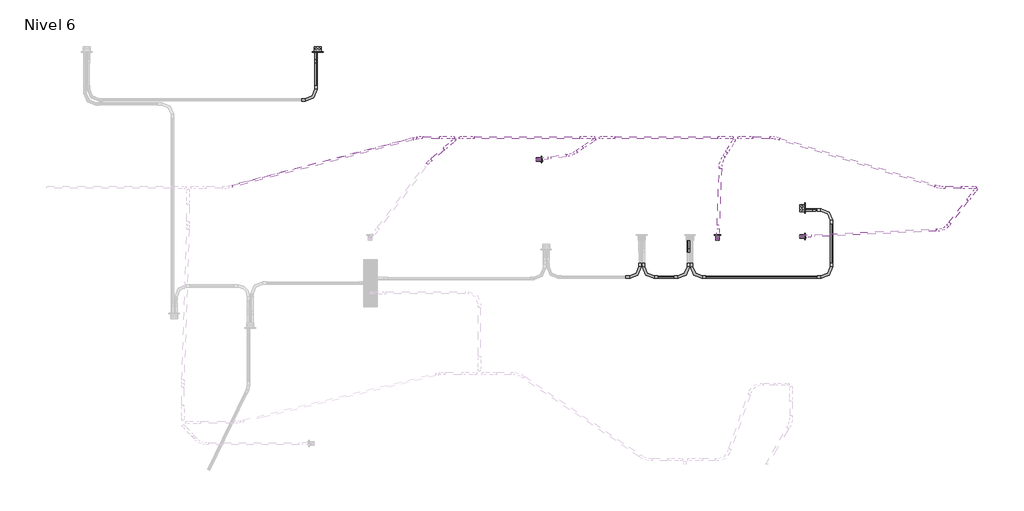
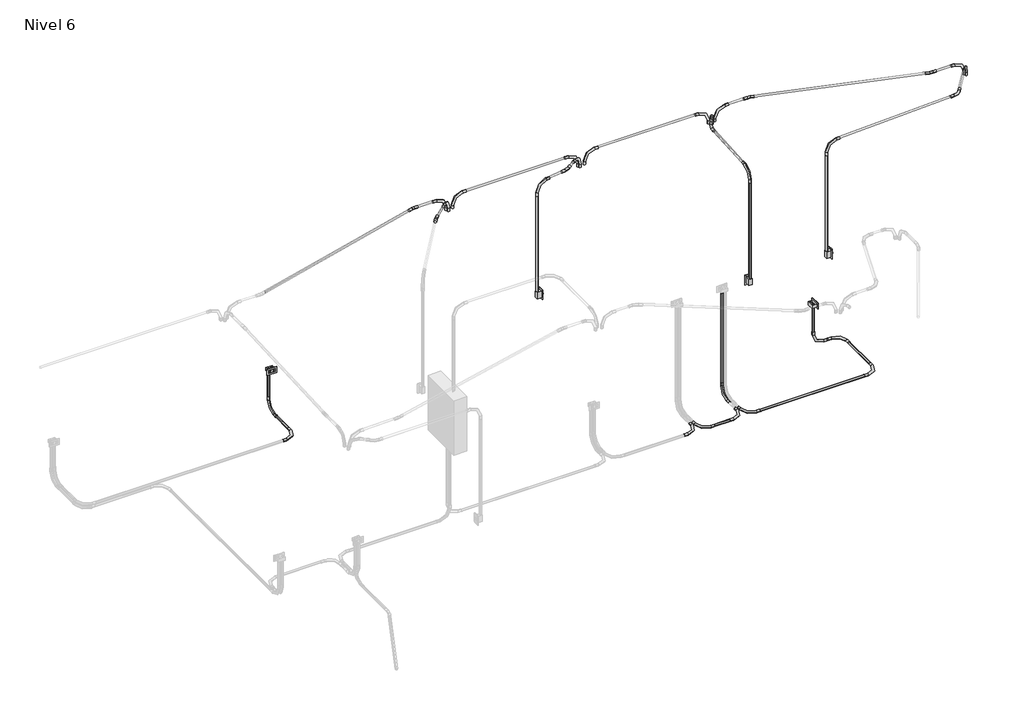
# One storey, part 9 of 9: 31 cable carrier fittings, 25 cable carrier segments, 3 switching devices, 2 proxies.
"""IFC4 building model written with IfcOpenShell, lengths in millimetres."""

from ifc_helpers import new_model, si_unit, point, frame, frame_2d, origin, place, context, project, spatial, circle_curve, trimmed, segment, composite_curve, outline, extrude, transform, mapped, element, save
from components import gfci_180f1b41, m_codo_de_tubo_extremo_liso_pvc_9da73e12, m_codo_de_tubo_extremo_liso_pvc_102f0f41, m_codo_de_tubo_extremo_liso_pvc_92fde12f, m_codo_de_tubo_extremo_liso_pvc_e41270cf, m_codo_de_tubo_extremo_liso_pvc_c93ebd9e, m_codo_de_tubo_extremo_liso_pvc_ea6c4dee, m_codo_de_tubo_extremo_liso_pvc_6b1aaa2f, m_codo_de_tubo_extremo_liso_pvc_34f56efc, switching_device_22fed34b

model = new_model("IFC4")

# Units and contexts
model_context = context("Model", 3, world=origin())
ifc_project = project(units=[si_unit("LENGTHUNIT", "METRE", prefix="MILLI")], contexts=[model_context])

# Site, building, storey
site = spatial("IfcSite", under=ifc_project)
building = spatial("IfcBuilding", under=site)
storey = spatial("IfcBuildingStorey", under=building, Name="Nivel 6", Elevation=13400.0)

# Proxies
placement = place(None, origin())
gfci_shape = gfci_180f1b41(model_context)
element("IfcBuildingElementProxy", 1, Name="Tomacorriente doble 220V : GFCI", ObjectType="Tomacorriente doble 220V : GFCI", at=placement, inside=storey, context=model_context, shape_type="MappedRepresentation", body=[
    mapped(gfci_shape, transform((692.9665874, 17515.0, 13800.0), x_axis=(0.0, 0.0, 1.0), y_axis=(-1.0, 0.0, 0.0), z_axis=(0.0, -1.0, 0.0))),
])
element("IfcBuildingElementProxy", 2, Name="Tomacorriente doble 220V : GFCI", ObjectType="Tomacorriente doble 220V : GFCI", at=placement, inside=storey, context=model_context, shape_type="MappedRepresentation", body=[
    mapped(gfci_shape, transform((5935.0, 15829.5576007, 13800.0), x_axis=(0.0, 0.0, 1.0), y_axis=(0.0, -1.0, 0.0), z_axis=(1.0, 0.0, 0.0))),
])

# Cable carrier fittings
m_codo_de_tubo_extremo_liso_pvc_shape = m_codo_de_tubo_extremo_liso_pvc_9da73e12(model_context)
element("IfcCableCarrierFitting", 3, ObjectType="M_Codo de tubo - Extremo liso - PVC : CODO POTENCIA", at=placement, inside=storey, context=model_context, shape_type="MappedRepresentation", body=[
    mapped(m_codo_de_tubo_extremo_liso_pvc_shape, transform((5905.3628882, 15811.5257809, 13330.0), x_axis=(0.0, 0.0, -1.0), y_axis=(1.0, 0.0, 0.0), z_axis=(0.0, -1.0, 0.0))),
])
element("IfcCableCarrierFitting", 4, ObjectType="M_Codo de tubo - Extremo liso - PVC : CODO POTENCIA", at=placement, inside=storey, context=model_context, shape_type="MappedRepresentation", body=[
    mapped(m_codo_de_tubo_extremo_liso_pvc_shape, transform((6225.3628882, 15811.5257809, 13330.0), x_axis=(0.0, 1.0, 0.0), y_axis=(-1.0, 0.0, 0.0), z_axis=(0.0, 0.0, 1.0))),
])
element("IfcCableCarrierFitting", 5, ObjectType="M_Codo de tubo - Extremo liso - PVC : CODO POTENCIA", at=placement, inside=storey, context=model_context, shape_type="MappedRepresentation", body=[
    mapped(m_codo_de_tubo_extremo_liso_pvc_shape, transform((4200.1764771, 15085.1167763, 13330.0), x_axis=(0.0, -1.0, 0.0), y_axis=(1.0, 0.0, 0.0), z_axis=(0.0, 0.0, 1.0))),
])
element("IfcCableCarrierFitting", 6, ObjectType="M_Codo de tubo - Extremo liso - PVC : CODO POTENCIA", at=placement, inside=storey, context=model_context, shape_type="MappedRepresentation", body=[
    mapped(m_codo_de_tubo_extremo_liso_pvc_shape, transform((4164.1128375, 15085.1167763, 13330.0), x_axis=(1.0, 0.0, 0.0), y_axis=(0.0, 1.0, 0.0), z_axis=(0.0, 0.0, 1.0))),
])
element("IfcCableCarrierFitting", 7, ObjectType="M_Codo de tubo - Extremo liso - PVC : CODO POTENCIA", at=placement, inside=storey, context=model_context, shape_type="MappedRepresentation", body=[
    mapped(m_codo_de_tubo_extremo_liso_pvc_shape, transform((4719.1096731, 15085.1167763, 13330.0), x_axis=(0.0, -1.0, 0.0), y_axis=(1.0, 0.0, 0.0), z_axis=(0.0, 0.0, 1.0))),
])
element("IfcCableCarrierFitting", 8, ObjectType="M_Codo de tubo - Extremo liso - PVC : CODO POTENCIA", at=placement, inside=storey, context=model_context, shape_type="MappedRepresentation", body=[
    mapped(m_codo_de_tubo_extremo_liso_pvc_shape, transform((6225.3628882, 15085.1167763, 13330.0), x_axis=(1.0, 0.0, 0.0), y_axis=(0.0, 1.0, 0.0), z_axis=(0.0, 0.0, 1.0))),
])
element("IfcCableCarrierFitting", 9, ObjectType="M_Codo de tubo - Extremo liso - PVC : CODO POTENCIA", at=placement, inside=storey, context=model_context, shape_type="MappedRepresentation", body=[
    mapped(m_codo_de_tubo_extremo_liso_pvc_shape, transform((4683.0460335, 15085.1167763, 13330.0), x_axis=(1.0, 0.0, 0.0), y_axis=(0.0, 1.0, 0.0), z_axis=(0.0, 0.0, 1.0))),
])
element("IfcCableCarrierFitting", 10, ObjectType="M_Codo de tubo - Extremo liso - PVC : CODO POTENCIA", at=placement, inside=storey, context=model_context, shape_type="MappedRepresentation", body=[
    mapped(m_codo_de_tubo_extremo_liso_pvc_shape, transform((4683.0460335, 15505.3628882, 13330.0), x_axis=(0.0, 0.0, -1.0), y_axis=(0.0, -1.0, 0.0), z_axis=(-1.0, 0.0, 0.0))),
])
element("IfcCableCarrierFitting", 11, ObjectType="M_Codo de tubo - Extremo liso - PVC : CODO POTENCIA", at=placement, inside=storey, context=model_context, shape_type="MappedRepresentation", body=[
    mapped(m_codo_de_tubo_extremo_liso_pvc_shape, transform((674.9347676, 17544.6371118, 13330.0), x_axis=(0.0, 0.0, -1.0), y_axis=(0.0, -1.0, 0.0), z_axis=(-1.0, 0.0, 0.0))),
])
element("IfcCableCarrierFitting", 12, ObjectType="M_Codo de tubo - Extremo liso - PVC : CODO POTENCIA", at=placement, inside=storey, context=model_context, shape_type="MappedRepresentation", body=[
    mapped(m_codo_de_tubo_extremo_liso_pvc_shape, transform((674.9347676, 16994.6371118, 13330.0), x_axis=(1.0, 0.0, 0.0), y_axis=(0.0, 1.0, 0.0), z_axis=(0.0, 0.0, 1.0))),
])
element("IfcCableCarrierFitting", 13, ObjectType="M_Codo de tubo - Extremo liso - PVC : CODO ILUMINACION", at=placement, inside=storey, context=model_context, shape_type="MappedRepresentation", body=[
    mapped(m_codo_de_tubo_extremo_liso_pvc_shape, transform((2225.9487864, 16587.4354193, 15950.0), x_axis=(-1.0, 0.0, 0.0), y_axis=(0.0, 0.0, -1.0), z_axis=(0.0, -1.0, 0.0))),
])
element("IfcCableCarrierFitting", 14, ObjectType="M_Codo de tubo - Extremo liso - PVC : CODO ILUMINACION", at=placement, inside=storey, context=model_context, shape_type="MappedRepresentation", body=[
    mapped(m_codo_de_tubo_extremo_liso_pvc_shape, transform((3736.1279972, 16587.4354193, 15950.0), x_axis=(-1.0, 0.0, 0.0), y_axis=(0.0, 0.0, -1.0), z_axis=(0.0, -1.0, 0.0))),
])
element("IfcCableCarrierFitting", 15, ObjectType="M_Codo de tubo - Extremo liso - PVC : CODO ILUMINACION", at=placement, inside=storey, context=model_context, shape_type="MappedRepresentation", body=[
    mapped(m_codo_de_tubo_extremo_liso_pvc_shape, transform((5226.1464156, 16587.4354193, 15950.0), x_axis=(-1.0, 0.0, 0.0), y_axis=(0.0, 0.0, -1.0), z_axis=(0.0, -1.0, 0.0))),
])
element("IfcCableCarrierFitting", 16, ObjectType="M_Codo de tubo - Extremo liso - PVC : CODO ILUMINACION", at=placement, inside=storey, context=model_context, shape_type="MappedRepresentation", body=[
    mapped(m_codo_de_tubo_extremo_liso_pvc_shape, transform((3056.7668084, 16350.9240249, 15950.0), x_axis=(0.0, 0.0, 1.0), y_axis=(0.9898167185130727, 0.14234768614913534, 0.0), z_axis=(-0.14234768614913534, 0.9898167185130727, 0.0))),
])
element("IfcCableCarrierFitting", 17, ObjectType="M_Codo de tubo - Extremo liso - PVC : CODO ILUMINACION", at=placement, inside=storey, context=model_context, shape_type="MappedRepresentation", body=[
    mapped(m_codo_de_tubo_extremo_liso_pvc_shape, transform((4998.0328965, 15491.8611243, 15950.0), x_axis=(0.0, 0.0, 1.0), y_axis=(0.04000676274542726, 0.9991994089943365, 0.0), z_axis=(-0.9991994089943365, 0.04000676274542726, 0.0))),
])
element("IfcCableCarrierFitting", 18, ObjectType="M_Codo de tubo - Extremo liso - PVC : CODO ILUMINACION", at=placement, inside=storey, context=model_context, shape_type="MappedRepresentation", body=[
    mapped(m_codo_de_tubo_extremo_liso_pvc_shape, transform((7783.0112971, 16033.2646131, 15950.0), x_axis=(0.6156614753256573, 0.7880107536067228, 0.0), y_axis=(0.0, 0.0, -1.0), z_axis=(-0.7880107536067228, 0.6156614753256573, 0.0))),
])
element("IfcCableCarrierFitting", 19, ObjectType="M_Codo de tubo - Extremo liso - PVC : CODO ILUMINACION", at=placement, inside=storey, context=model_context, shape_type="MappedRepresentation", body=[
    mapped(m_codo_de_tubo_extremo_liso_pvc_shape, transform((5891.8611243, 15524.7326338, 15950.0), x_axis=(0.0, 0.0, 1.0), y_axis=(0.99888718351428, 0.047163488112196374, 0.0), z_axis=(-0.047163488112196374, 0.99888718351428, 0.0))),
])
m_codo_de_tubo_extremo_liso_pvc_2_shape = m_codo_de_tubo_extremo_liso_pvc_102f0f41(model_context)
element("IfcCableCarrierFitting", 20, ObjectType="M_Codo de tubo - Extremo liso - PVC : CODO ILUMINACION", at=placement, inside=storey, context=model_context, shape_type="MappedRepresentation", body=[
    mapped(m_codo_de_tubo_extremo_liso_pvc_2_shape, transform((2153.6927919, 16587.4354193, 15950.0), x_axis=(1.0, 0.0, 0.0), y_axis=(0.0, 0.0, 1.0), z_axis=(0.0, -1.0, 0.0))),
])
element("IfcCableCarrierFitting", 21, ObjectType="M_Codo de tubo - Extremo liso - PVC : CODO ILUMINACION", at=placement, inside=storey, context=model_context, shape_type="MappedRepresentation", body=[
    mapped(m_codo_de_tubo_extremo_liso_pvc_2_shape, transform((3663.8720028, 16587.4354193, 15950.0), x_axis=(1.0, 0.0, 0.0), y_axis=(0.0, 0.0, 1.0), z_axis=(0.0, -1.0, 0.0))),
])
element("IfcCableCarrierFitting", 22, ObjectType="M_Codo de tubo - Extremo liso - PVC : CODO ILUMINACION", at=placement, inside=storey, context=model_context, shape_type="MappedRepresentation", body=[
    mapped(m_codo_de_tubo_extremo_liso_pvc_2_shape, transform((5153.8904212, 16587.4354193, 15950.0), x_axis=(1.0, 0.0, 0.0), y_axis=(0.0, 0.0, 1.0), z_axis=(0.0, -1.0, 0.0))),
])
element("IfcCableCarrierFitting", 23, ObjectType="M_Codo de tubo - Extremo liso - PVC : CODO ILUMINACION", at=placement, inside=storey, context=model_context, shape_type="MappedRepresentation", body=[
    mapped(m_codo_de_tubo_extremo_liso_pvc_2_shape, transform((7773.7813087, 16052.1888938, 15950.0), x_axis=(1.0, 0.0, 0.0), y_axis=(0.0, 0.0, 1.0), z_axis=(0.0, -1.0, 0.0))),
])
element("IfcCableCarrierFitting", 24, ObjectType="M_Codo de tubo - Extremo liso - PVC : CODO ILUMINACION", at=placement, inside=storey, context=model_context, shape_type="MappedRepresentation", body=[
    mapped(m_codo_de_tubo_extremo_liso_pvc_2_shape, transform((2166.4304947, 16565.1824419, 15950.0), x_axis=(0.7547095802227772, 0.6560590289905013, 0.0), y_axis=(0.0, 0.0, 1.0), z_axis=(0.6560590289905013, -0.7547095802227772, 0.0))),
])
element("IfcCableCarrierFitting", 25, ObjectType="M_Codo de tubo - Extremo liso - PVC : CODO ILUMINACION", at=placement, inside=storey, context=model_context, shape_type="MappedRepresentation", body=[
    mapped(m_codo_de_tubo_extremo_liso_pvc_2_shape, transform((3673.3521205, 16568.2429077, 15950.0), x_axis=(0.8290375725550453, 0.5591929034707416, 0.0), y_axis=(0.0, 0.0, 1.0), z_axis=(0.5591929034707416, -0.8290375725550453, 0.0))),
])
element("IfcCableCarrierFitting", 26, ObjectType="M_Codo de tubo - Extremo liso - PVC : CODO ILUMINACION", at=placement, inside=storey, context=model_context, shape_type="MappedRepresentation", body=[
    mapped(m_codo_de_tubo_extremo_liso_pvc_2_shape, transform((5175.8835767, 16559.5742727, 15950.0), x_axis=(0.5299192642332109, 0.8480480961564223, 0.0), y_axis=(0.0, 0.0, 1.0), z_axis=(0.8480480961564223, -0.5299192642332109, 0.0))),
])
m_codo_de_tubo_extremo_liso_pvc_3_shape = m_codo_de_tubo_extremo_liso_pvc_92fde12f(model_context)
element("IfcCableCarrierFitting", 27, ObjectType="M_Codo de tubo - Extremo liso - PVC : CODO ILUMINACION", at=placement, inside=storey, context=model_context, shape_type="MappedRepresentation", body=[
    mapped(m_codo_de_tubo_extremo_liso_pvc_3_shape, transform((7392.7813087, 16052.1888938, 15950.0), x_axis=(0.9576266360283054, -0.2880125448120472, 0.0), y_axis=(0.2880125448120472, 0.9576266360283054, 0.0), z_axis=(0.0, 0.0, 1.0))),
])
element("IfcCableCarrierFitting", 28, ObjectType="M_Codo de tubo - Extremo liso - PVC : CODO ILUMINACION", at=placement, inside=storey, context=model_context, shape_type="MappedRepresentation", body=[
    mapped(m_codo_de_tubo_extremo_liso_pvc_3_shape, transform((5613.1146282, 16587.4354193, 15950.0), x_axis=(-0.9576266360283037, 0.28801254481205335, 0.0), y_axis=(-0.28801254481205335, -0.9576266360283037, 0.0), z_axis=(0.0, 0.0, 1.0))),
])
m_codo_de_tubo_extremo_liso_pvc_4_shape = m_codo_de_tubo_extremo_liso_pvc_e41270cf(model_context)
element("IfcCableCarrierFitting", 29, ObjectType="M_Codo de tubo - Extremo liso - PVC : CODO ILUMINACION", at=placement, inside=storey, context=model_context, shape_type="MappedRepresentation", body=[
    mapped(m_codo_de_tubo_extremo_liso_pvc_4_shape, transform((1772.6927919, 16587.4354193, 15950.0), x_axis=(-1.0, 0.0, 0.0), y_axis=(0.0, -1.0, 0.0), z_axis=(0.0, 0.0, 1.0))),
])
m_codo_de_tubo_extremo_liso_pvc_5_shape = m_codo_de_tubo_extremo_liso_pvc_c93ebd9e(model_context)
element("IfcCableCarrierFitting", 30, ObjectType="M_Codo de tubo - Extremo liso - PVC : CODO ILUMINACION", at=placement, inside=storey, context=model_context, shape_type="MappedRepresentation", body=[
    mapped(m_codo_de_tubo_extremo_liso_pvc_5_shape, transform((1878.8861447, 16315.2239518, 15950.0), x_axis=(-0.7547095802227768, -0.6560590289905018, 0.0), y_axis=(0.6560590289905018, -0.7547095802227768, 0.0), z_axis=(0.0, 0.0, 1.0))),
])
m_codo_de_tubo_extremo_liso_pvc_6_shape = m_codo_de_tubo_extremo_liso_pvc_ea6c4dee(model_context)
element("IfcCableCarrierFitting", 31, ObjectType="M_Codo de tubo - Extremo liso - PVC : CODO ILUMINACION", at=placement, inside=storey, context=model_context, shape_type="MappedRepresentation", body=[
    mapped(m_codo_de_tubo_extremo_liso_pvc_6_shape, transform((3430.9415343, 16404.7349027, 15950.0), x_axis=(0.9898167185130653, 0.14234768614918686, 0.0), y_axis=(-0.14234768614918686, 0.9898167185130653, 0.0), z_axis=(0.0, 0.0, 1.0))),
])
m_codo_de_tubo_extremo_liso_pvc_7_shape = m_codo_de_tubo_extremo_liso_pvc_6b1aaa2f(model_context)
element("IfcCableCarrierFitting", 32, ObjectType="M_Codo de tubo - Extremo liso - PVC : CODO ILUMINACION", at=placement, inside=storey, context=model_context, shape_type="MappedRepresentation", body=[
    mapped(m_codo_de_tubo_extremo_liso_pvc_7_shape, transform((5031.5335691, 16328.5659713, 15950.0), x_axis=(-0.5299192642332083, -0.8480480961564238, 0.0), y_axis=(0.8480480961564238, -0.5299192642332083, 0.0), z_axis=(0.0, 0.0, 1.0))),
])
m_codo_de_tubo_extremo_liso_pvc_8_shape = m_codo_de_tubo_extremo_liso_pvc_34f56efc(model_context)
element("IfcCableCarrierFitting", 33, ObjectType="M_Codo de tubo - Extremo liso - PVC : CODO ILUMINACION", at=placement, inside=storey, context=model_context, shape_type="MappedRepresentation", body=[
    mapped(m_codo_de_tubo_extremo_liso_pvc_8_shape, transform((7442.9198981, 15597.9674728, 15950.0), x_axis=(0.9988871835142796, 0.047163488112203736, 0.0), y_axis=(-0.047163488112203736, 0.9988871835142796, 0.0), z_axis=(0.0, 0.0, 1.0))),
])

# Cable carrier segments
element("IfcCableCarrierSegment", 34, ObjectType="PVC-SEL, POTENCIA", at=placement, inside=storey, context=model_context, shape_type="SweptSolid", body=[
    extrude(outline(composite_curve([segment(trimmed(circle_curve(frame_2d((15811.5257809, 13330.0)), 11.71), [point((15799.8157809, 13330.0))], [point((15811.5257809, 13341.71))], False, "CARTESIAN"), True, "CONTINUOUS"), segment(trimmed(circle_curve(frame_2d((15811.5257809, 13330.0)), 11.71), [point((15811.5257809, 13341.71))], [point((15823.2357809, 13330.0))], False, "CARTESIAN"), True, "CONTINUOUS"), segment(trimmed(circle_curve(frame_2d((15811.5257809, 13330.0)), 11.71), [point((15823.2357809, 13330.0))], [point((15811.5257809, 13318.29))], False, "CARTESIAN"), True, "CONTINUOUS"), segment(trimmed(circle_curve(frame_2d((15811.5257809, 13330.0)), 11.71), [point((15811.5257809, 13318.29))], [point((15799.8157809, 13330.0))], False, "CARTESIAN"), True, "CONTINUOUS")], self_intersect=False)), frame((6057.7628882, 0.0, 0.0), z_axis=(1.0, 0.0, 0.0), x_axis=(0.0, 1.0, 0.0)), (0.0, 0.0, 1.0), 15.2),
])
element("IfcCableCarrierSegment", 35, ObjectType="PVC-SEL, POTENCIA", at=placement, inside=storey, context=model_context, shape_type="SweptSolid", body=[
    extrude(outline(composite_curve([segment(trimmed(circle_curve(frame_2d((5905.3628882, 15811.5257809)), 11.71), [point((5917.0728882, 15811.5257809))], [point((5905.3628882, 15799.8157809))], False, "CARTESIAN"), True, "CONTINUOUS"), segment(trimmed(circle_curve(frame_2d((5905.3628882, 15811.5257809)), 11.71), [point((5905.3628882, 15799.8157809))], [point((5893.6528882, 15811.5257809))], False, "CARTESIAN"), True, "CONTINUOUS"), segment(trimmed(circle_curve(frame_2d((5905.3628882, 15811.5257809)), 11.71), [point((5893.6528882, 15811.5257809))], [point((5905.3628882, 15823.2357809))], False, "CARTESIAN"), True, "CONTINUOUS"), segment(trimmed(circle_curve(frame_2d((5905.3628882, 15811.5257809)), 11.71), [point((5905.3628882, 15823.2357809))], [point((5917.0728882, 15811.5257809))], False, "CARTESIAN"), True, "CONTINUOUS")], self_intersect=False)), frame((0.0, 0.0, 13482.4), z_axis=(0.0, 0.0, 1.0), x_axis=(1.0, 0.0, 0.0)), (0.0, 0.0, 1.0), 297.3020537),
])
element("IfcCableCarrierSegment", 36, ObjectType="PVC-SEL, POTENCIA", at=placement, inside=storey, context=model_context, shape_type="SweptSolid", body=[
    extrude(outline(composite_curve([segment(trimmed(circle_curve(frame_2d((13330.0, 6225.3628882)), 11.71), [point((13330.0, 6213.6528882))], [point((13318.29, 6225.3628882))], False, "CARTESIAN"), True, "CONTINUOUS"), segment(trimmed(circle_curve(frame_2d((13330.0, 6225.3628882)), 11.71), [point((13318.29, 6225.3628882))], [point((13330.0, 6237.0728882))], False, "CARTESIAN"), True, "CONTINUOUS"), segment(trimmed(circle_curve(frame_2d((13330.0, 6225.3628882)), 11.71), [point((13330.0, 6237.0728882))], [point((13341.71, 6225.3628882))], False, "CARTESIAN"), True, "CONTINUOUS"), segment(trimmed(circle_curve(frame_2d((13330.0, 6225.3628882)), 11.71), [point((13341.71, 6225.3628882))], [point((13330.0, 6213.6528882))], False, "CARTESIAN"), True, "CONTINUOUS")], self_intersect=False)), frame((0.0, 15237.5167763, 0.0), z_axis=(0.0, 1.0, 0.0), x_axis=(0.0, 0.0, 1.0)), (0.0, 0.0, 1.0), 421.6090046),
])
element("IfcCableCarrierSegment", 37, ObjectType="PVC-SEL, POTENCIA", at=placement, inside=storey, context=model_context, shape_type="SweptSolid", body=[
    extrude(outline(composite_curve([segment(trimmed(circle_curve(frame_2d((15085.1167763, 13330.0)), 11.71), [point((15073.4067763, 13330.0))], [point((15085.1167763, 13341.71))], False, "CARTESIAN"), True, "CONTINUOUS"), segment(trimmed(circle_curve(frame_2d((15085.1167763, 13330.0)), 11.71), [point((15085.1167763, 13341.71))], [point((15096.8267763, 13330.0))], False, "CARTESIAN"), True, "CONTINUOUS"), segment(trimmed(circle_curve(frame_2d((15085.1167763, 13330.0)), 11.71), [point((15096.8267763, 13330.0))], [point((15085.1167763, 13318.29))], False, "CARTESIAN"), True, "CONTINUOUS"), segment(trimmed(circle_curve(frame_2d((15085.1167763, 13330.0)), 11.71), [point((15085.1167763, 13318.29))], [point((15073.4067763, 13330.0))], False, "CARTESIAN"), True, "CONTINUOUS")], self_intersect=False)), frame((4871.5096731, 0.0, 0.0), z_axis=(1.0, 0.0, 0.0), x_axis=(0.0, 1.0, 0.0)), (0.0, 0.0, 1.0), 1201.4532151),
])
element("IfcCableCarrierSegment", 38, ObjectType="PVC-SEL, POTENCIA", at=placement, inside=storey, context=model_context, shape_type="SweptSolid", body=[
    extrude(outline(composite_curve([segment(trimmed(circle_curve(frame_2d((4683.0460335, 15505.3628882)), 11.71), [point((4694.7560335, 15505.3628882))], [point((4683.0460335, 15493.6528882))], False, "CARTESIAN"), True, "CONTINUOUS"), segment(trimmed(circle_curve(frame_2d((4683.0460335, 15505.3628882)), 11.71), [point((4683.0460335, 15493.6528882))], [point((4671.3360335, 15505.3628882))], False, "CARTESIAN"), True, "CONTINUOUS"), segment(trimmed(circle_curve(frame_2d((4683.0460335, 15505.3628882)), 11.71), [point((4671.3360335, 15505.3628882))], [point((4683.0460335, 15517.0728882))], False, "CARTESIAN"), True, "CONTINUOUS"), segment(trimmed(circle_curve(frame_2d((4683.0460335, 15505.3628882)), 11.71), [point((4683.0460335, 15517.0728882))], [point((4694.7560335, 15505.3628882))], False, "CARTESIAN"), True, "CONTINUOUS")], self_intersect=False)), frame((0.0, 0.0, 13482.4), z_axis=(0.0, 0.0, 1.0), x_axis=(1.0, 0.0, 0.0)), (0.0, 0.0, 1.0), 1097.3020537),
])
element("IfcCableCarrierSegment", 39, ObjectType="PVC-SEL, POTENCIA", at=placement, inside=storey, context=model_context, shape_type="SweptSolid", body=[
    extrude(outline(composite_curve([segment(trimmed(circle_curve(frame_2d((15085.1167763, 13330.0)), 11.71), [point((15073.4067763, 13330.0))], [point((15085.1167763, 13341.71))], False, "CARTESIAN"), True, "CONTINUOUS"), segment(trimmed(circle_curve(frame_2d((15085.1167763, 13330.0)), 11.71), [point((15085.1167763, 13341.71))], [point((15096.8267763, 13330.0))], False, "CARTESIAN"), True, "CONTINUOUS"), segment(trimmed(circle_curve(frame_2d((15085.1167763, 13330.0)), 11.71), [point((15096.8267763, 13330.0))], [point((15085.1167763, 13318.29))], False, "CARTESIAN"), True, "CONTINUOUS"), segment(trimmed(circle_curve(frame_2d((15085.1167763, 13330.0)), 11.71), [point((15085.1167763, 13318.29))], [point((15073.4067763, 13330.0))], False, "CARTESIAN"), True, "CONTINUOUS")], self_intersect=False)), frame((4352.5764771, 0.0, 0.0), z_axis=(1.0, 0.0, 0.0), x_axis=(0.0, 1.0, 0.0)), (0.0, 0.0, 1.0), 178.0695564),
])
element("IfcCableCarrierSegment", 40, ObjectType="PVC-SEL, POTENCIA", at=placement, inside=storey, context=model_context, shape_type="SweptSolid", body=[
    extrude(outline(composite_curve([segment(trimmed(circle_curve(frame_2d((13330.0, 674.9347676)), 11.71), [point((13330.0, 663.2247676))], [point((13318.29, 674.9347676))], False, "CARTESIAN"), True, "CONTINUOUS"), segment(trimmed(circle_curve(frame_2d((13330.0, 674.9347676)), 11.71), [point((13318.29, 674.9347676))], [point((13330.0, 686.6447676))], False, "CARTESIAN"), True, "CONTINUOUS"), segment(trimmed(circle_curve(frame_2d((13330.0, 674.9347676)), 11.71), [point((13330.0, 686.6447676))], [point((13341.71, 674.9347676))], False, "CARTESIAN"), True, "CONTINUOUS"), segment(trimmed(circle_curve(frame_2d((13330.0, 674.9347676)), 11.71), [point((13341.71, 674.9347676))], [point((13330.0, 663.2247676))], False, "CARTESIAN"), True, "CONTINUOUS")], self_intersect=False)), frame((0.0, 17147.0371118, 0.0), z_axis=(0.0, 1.0, 0.0), x_axis=(0.0, 0.0, 1.0)), (0.0, 0.0, 1.0), 245.2),
])
element("IfcCableCarrierSegment", 41, ObjectType="PVC-SEL, POTENCIA", at=placement, inside=storey, context=model_context, shape_type="SweptSolid", body=[
    extrude(outline(composite_curve([segment(trimmed(circle_curve(frame_2d((674.9347676, 17544.6371118)), 11.71), [point((686.6447676, 17544.6371118))], [point((674.9347676, 17532.9271118))], False, "CARTESIAN"), True, "CONTINUOUS"), segment(trimmed(circle_curve(frame_2d((674.9347676, 17544.6371118)), 11.71), [point((674.9347676, 17532.9271118))], [point((663.2247676, 17544.6371118))], False, "CARTESIAN"), True, "CONTINUOUS"), segment(trimmed(circle_curve(frame_2d((674.9347676, 17544.6371118)), 11.71), [point((663.2247676, 17544.6371118))], [point((674.9347676, 17556.3471118))], False, "CARTESIAN"), True, "CONTINUOUS"), segment(trimmed(circle_curve(frame_2d((674.9347676, 17544.6371118)), 11.71), [point((674.9347676, 17556.3471118))], [point((686.6447676, 17544.6371118))], False, "CARTESIAN"), True, "CONTINUOUS")], self_intersect=False)), frame((0.0, 0.0, 13482.4), z_axis=(0.0, 0.0, 1.0), x_axis=(1.0, 0.0, 0.0)), (0.0, 0.0, 1.0), 297.3020537),
])
element("IfcCableCarrierSegment", 42, ObjectType="PVC-SEL ILUMINACION", at=placement, inside=storey, context=model_context, shape_type="SweptSolid", body=[
    extrude(outline(composite_curve([segment(trimmed(circle_curve(frame_2d((16587.4354193, 15950.0)), 11.71), [point((16599.1454193, 15950.0))], [point((16587.4354193, 15938.29))], False, "CARTESIAN"), True, "CONTINUOUS"), segment(trimmed(circle_curve(frame_2d((16587.4354193, 15950.0)), 11.71), [point((16587.4354193, 15938.29))], [point((16575.7254193, 15950.0))], False, "CARTESIAN"), True, "CONTINUOUS"), segment(trimmed(circle_curve(frame_2d((16587.4354193, 15950.0)), 11.71), [point((16575.7254193, 15950.0))], [point((16587.4354193, 15961.71))], False, "CARTESIAN"), True, "CONTINUOUS"), segment(trimmed(circle_curve(frame_2d((16587.4354193, 15950.0)), 11.71), [point((16587.4354193, 15961.71))], [point((16599.1454193, 15950.0))], False, "CARTESIAN"), True, "CONTINUOUS")], self_intersect=False)), frame((2378.3487864, 0.0, 0.0), z_axis=(1.0, 0.0, 0.0), x_axis=(0.0, 1.0, 0.0)), (0.0, 0.0, 1.0), 1133.1232164),
])
element("IfcCableCarrierSegment", 43, ObjectType="PVC-SEL ILUMINACION", at=placement, inside=storey, context=model_context, shape_type="SweptSolid", body=[
    extrude(outline(composite_curve([segment(trimmed(circle_curve(frame_2d((16587.4354193, 15950.0)), 11.71), [point((16599.1454193, 15950.0))], [point((16587.4354193, 15938.29))], False, "CARTESIAN"), True, "CONTINUOUS"), segment(trimmed(circle_curve(frame_2d((16587.4354193, 15950.0)), 11.71), [point((16587.4354193, 15938.29))], [point((16575.7254193, 15950.0))], False, "CARTESIAN"), True, "CONTINUOUS"), segment(trimmed(circle_curve(frame_2d((16587.4354193, 15950.0)), 11.71), [point((16575.7254193, 15950.0))], [point((16587.4354193, 15961.71))], False, "CARTESIAN"), True, "CONTINUOUS"), segment(trimmed(circle_curve(frame_2d((16587.4354193, 15950.0)), 11.71), [point((16587.4354193, 15961.71))], [point((16599.1454193, 15950.0))], False, "CARTESIAN"), True, "CONTINUOUS")], self_intersect=False)), frame((3888.5279972, 0.0, 0.0), z_axis=(1.0, 0.0, 0.0), x_axis=(0.0, 1.0, 0.0)), (0.0, 0.0, 1.0), 1112.9624239),
])
element("IfcCableCarrierSegment", 44, ObjectType="PVC-SEL ILUMINACION", at=placement, inside=storey, context=model_context, shape_type="SweptSolid", body=[
    extrude(outline(composite_curve([segment(trimmed(circle_curve(frame_2d((0.0, 11.71)), 11.71), [point((11.71, 11.71))], [point((0.0, 0.0))], False, "CARTESIAN"), True, "CONTINUOUS"), segment(trimmed(circle_curve(frame_2d((0.0, 11.71)), 11.71), [point((0.0, 0.0))], [point((-11.71, 11.71))], False, "CARTESIAN"), True, "CONTINUOUS"), segment(trimmed(circle_curve(frame_2d((0.0, 11.71)), 11.71), [point((-11.71, 11.71))], [point((0.0, 23.42))], False, "CARTESIAN"), True, "CONTINUOUS"), segment(trimmed(circle_curve(frame_2d((0.0, 11.71)), 11.71), [point((0.0, 23.42))], [point((11.71, 11.71))], False, "CARTESIAN"), True, "CONTINUOUS")], self_intersect=False)), frame((7340.1920963, 16068.0054473, 15961.71), z_axis=(-0.9576266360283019, 0.28801254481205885, 0.0), x_axis=(0.28801254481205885, 0.9576266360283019, 0.0)), (0.0, 0.0, 1.0), 1748.5815377),
])
element("IfcCableCarrierSegment", 45, ObjectType="PVC-SEL ILUMINACION", at=placement, inside=storey, context=model_context, shape_type="SweptSolid", body=[
    extrude(outline(composite_curve([segment(trimmed(circle_curve(frame_2d((16587.4354193, 15950.0)), 11.71), [point((16575.7254193, 15950.0))], [point((16587.4354193, 15961.71))], False, "CARTESIAN"), True, "CONTINUOUS"), segment(trimmed(circle_curve(frame_2d((16587.4354193, 15950.0)), 11.71), [point((16587.4354193, 15961.71))], [point((16599.1454193, 15950.0))], False, "CARTESIAN"), True, "CONTINUOUS"), segment(trimmed(circle_curve(frame_2d((16587.4354193, 15950.0)), 11.71), [point((16599.1454193, 15950.0))], [point((16587.4354193, 15938.29))], False, "CARTESIAN"), True, "CONTINUOUS"), segment(trimmed(circle_curve(frame_2d((16587.4354193, 15950.0)), 11.71), [point((16587.4354193, 15938.29))], [point((16575.7254193, 15950.0))], False, "CARTESIAN"), True, "CONTINUOUS")], self_intersect=False)), frame((5378.5464156, 0.0, 0.0), z_axis=(1.0, 0.0, 0.0), x_axis=(0.0, 1.0, 0.0)), (0.0, 0.0, 1.0), 179.6520162),
])
element("IfcCableCarrierSegment", 46, ObjectType="PVC-SEL ILUMINACION", at=placement, inside=storey, context=model_context, shape_type="SweptSolid", body=[
    extrude(outline(composite_curve([segment(trimmed(circle_curve(frame_2d((16052.1888938, 15950.0)), 11.71), [point((16063.8988938, 15950.0))], [point((16052.1888938, 15938.29))], False, "CARTESIAN"), True, "CONTINUOUS"), segment(trimmed(circle_curve(frame_2d((16052.1888938, 15950.0)), 11.71), [point((16052.1888938, 15938.29))], [point((16040.4788938, 15950.0))], False, "CARTESIAN"), True, "CONTINUOUS"), segment(trimmed(circle_curve(frame_2d((16052.1888938, 15950.0)), 11.71), [point((16040.4788938, 15950.0))], [point((16052.1888938, 15961.71))], False, "CARTESIAN"), True, "CONTINUOUS"), segment(trimmed(circle_curve(frame_2d((16052.1888938, 15950.0)), 11.71), [point((16052.1888938, 15961.71))], [point((16063.8988938, 15950.0))], False, "CARTESIAN"), True, "CONTINUOUS")], self_intersect=False)), frame((7447.697505, 0.0, 0.0), z_axis=(1.0, 0.0, 0.0), x_axis=(0.0, 1.0, 0.0)), (0.0, 0.0, 1.0), 173.6838037),
])
element("IfcCableCarrierSegment", 47, ObjectType="PVC-SEL ILUMINACION", at=placement, inside=storey, context=model_context, shape_type="SweptSolid", body=[
    extrude(outline(composite_curve([segment(trimmed(circle_curve(frame_2d((0.0, -11.71)), 11.71), [point((-11.71, -11.71))], [point((0.0, 0.0))], False, "CARTESIAN"), True, "CONTINUOUS"), segment(trimmed(circle_curve(frame_2d((0.0, -11.71)), 11.71), [point((0.0, 0.0))], [point((11.7100001, -11.71))], False, "CARTESIAN"), True, "CONTINUOUS"), segment(trimmed(circle_curve(frame_2d((0.0, -11.71)), 11.71), [point((11.7100001, -11.71))], [point((0.0, -23.42))], False, "CARTESIAN"), True, "CONTINUOUS"), segment(trimmed(circle_curve(frame_2d((0.0, -11.71)), 11.71), [point((0.0, -23.42))], [point((-11.71, -11.71))], False, "CARTESIAN"), True, "CONTINUOUS")], self_intersect=False)), frame((-224.3739361, 16065.536034, 15938.29), z_axis=(0.9675076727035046, 0.2528416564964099, 0.0), x_axis=(0.2528416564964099, -0.9675076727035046, 0.0)), (0.0, 0.0, 1.0), 2011.3467544),
])
element("IfcCableCarrierSegment", 48, ObjectType="PVC-SEL ILUMINACION", at=placement, inside=storey, context=model_context, shape_type="SweptSolid", body=[
    extrude(outline(composite_curve([segment(trimmed(circle_curve(frame_2d((16587.4354193, 15950.0)), 11.71), [point((16599.1454193, 15950.0))], [point((16587.4354193, 15938.29))], False, "CARTESIAN"), True, "CONTINUOUS"), segment(trimmed(circle_curve(frame_2d((16587.4354193, 15950.0)), 11.71), [point((16587.4354193, 15938.29))], [point((16575.7254193, 15950.0))], False, "CARTESIAN"), True, "CONTINUOUS"), segment(trimmed(circle_curve(frame_2d((16587.4354193, 15950.0)), 11.71), [point((16575.7254193, 15950.0))], [point((16587.4354193, 15961.71))], False, "CARTESIAN"), True, "CONTINUOUS"), segment(trimmed(circle_curve(frame_2d((16587.4354193, 15950.0)), 11.71), [point((16587.4354193, 15961.71))], [point((16599.1454193, 15950.0))], False, "CARTESIAN"), True, "CONTINUOUS")], self_intersect=False)), frame((1825.4813249, 0.0, 0.0), z_axis=(1.0, 0.0, 0.0), x_axis=(0.0, 1.0, 0.0)), (0.0, 0.0, 1.0), 175.811467),
])
element("IfcCableCarrierSegment", 49, ObjectType="PVC-SEL ILUMINACION", at=placement, inside=storey, context=model_context, shape_type="SweptSolid", body=[
    extrude(outline(composite_curve([segment(trimmed(circle_curve(frame_2d((0.0, -11.71)), 11.71), [point((-11.71, -11.71))], [point((0.0, 0.0))], False, "CARTESIAN"), True, "CONTINUOUS"), segment(trimmed(circle_curve(frame_2d((0.0, -11.71)), 11.71), [point((0.0, 0.0))], [point((11.71, -11.71))], False, "CARTESIAN"), True, "CONTINUOUS"), segment(trimmed(circle_curve(frame_2d((0.0, -11.71)), 11.71), [point((11.71, -11.71))], [point((0.0, -23.42))], False, "CARTESIAN"), True, "CONTINUOUS"), segment(trimmed(circle_curve(frame_2d((0.0, -11.71)), 11.71), [point((0.0, -23.42))], [point((-11.71, -11.71))], False, "CARTESIAN"), True, "CONTINUOUS")], self_intersect=False)), frame((1916.806181, 16348.1873365, 15938.29), z_axis=(0.7547095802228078, 0.6560590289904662, 0.0), x_axis=(0.6560590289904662, -0.7547095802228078, 0.0)), (0.0, 0.0, 1.0), 178.3554591),
])
element("IfcCableCarrierSegment", 50, ObjectType="PVC-SEL ILUMINACION", at=placement, inside=storey, context=model_context, shape_type="SweptSolid", body=[
    extrude(outline(composite_curve([segment(trimmed(circle_curve(frame_2d((0.0, -11.71)), 11.71), [point((-11.7099999, -11.71))], [point((0.0, 0.0))], False, "CARTESIAN"), True, "CONTINUOUS"), segment(trimmed(circle_curve(frame_2d((0.0, -11.71)), 11.71), [point((0.0, 0.0))], [point((11.71, -11.71))], False, "CARTESIAN"), True, "CONTINUOUS"), segment(trimmed(circle_curve(frame_2d((0.0, -11.71)), 11.71), [point((11.71, -11.71))], [point((0.0, -23.42))], False, "CARTESIAN"), True, "CONTINUOUS"), segment(trimmed(circle_curve(frame_2d((0.0, -11.71)), 11.71), [point((0.0, -23.42))], [point((-11.7099999, -11.71))], False, "CARTESIAN"), True, "CONTINUOUS")], self_intersect=False)), frame((3484.2447421, 16440.6883704, 15938.29), z_axis=(0.829037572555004, 0.5591929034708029, 0.0), x_axis=(0.5591929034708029, -0.829037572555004, 0.0)), (0.0, 0.0, 1.0), 75.704714),
])
element("IfcCableCarrierSegment", 51, ObjectType="PVC-SEL ILUMINACION", at=placement, inside=storey, context=model_context, shape_type="SweptSolid", body=[
    extrude(outline(composite_curve([segment(trimmed(circle_curve(frame_2d((0.0, -11.71)), 11.71), [point((-11.71, -11.71))], [point((0.0, 0.0))], False, "CARTESIAN"), True, "CONTINUOUS"), segment(trimmed(circle_curve(frame_2d((0.0, -11.71)), 11.71), [point((0.0, 0.0))], [point((11.71, -11.71))], False, "CARTESIAN"), True, "CONTINUOUS"), segment(trimmed(circle_curve(frame_2d((0.0, -11.71)), 11.71), [point((11.71, -11.71))], [point((0.0, -23.42))], False, "CARTESIAN"), True, "CONTINUOUS"), segment(trimmed(circle_curve(frame_2d((0.0, -11.71)), 11.71), [point((0.0, -23.42))], [point((-11.71, -11.71))], False, "CARTESIAN"), True, "CONTINUOUS")], self_intersect=False)), frame((3207.6148763, 16372.6178123, 15938.29), z_axis=(0.9898167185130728, 0.1423476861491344, 0.0), x_axis=(0.1423476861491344, -0.9898167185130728, 0.0)), (0.0, 0.0, 1.0), 161.3289673),
])
element("IfcCableCarrierSegment", 52, ObjectType="PVC-SEL ILUMINACION", at=placement, inside=storey, context=model_context, shape_type="SweptSolid", body=[
    extrude(outline(composite_curve([segment(trimmed(circle_curve(frame_2d((3056.7668084, 16350.9240249)), 11.71), [point((3045.0568084, 16350.9240249))], [point((3056.7668084, 16362.6340249))], False, "CARTESIAN"), True, "CONTINUOUS"), segment(trimmed(circle_curve(frame_2d((3056.7668084, 16350.9240249)), 11.71), [point((3056.7668084, 16362.6340249))], [point((3068.4768084, 16350.9240249))], False, "CARTESIAN"), True, "CONTINUOUS"), segment(trimmed(circle_curve(frame_2d((3056.7668084, 16350.9240249)), 11.71), [point((3068.4768084, 16350.9240249))], [point((3056.7668084, 16339.2140249))], False, "CARTESIAN"), True, "CONTINUOUS"), segment(trimmed(circle_curve(frame_2d((3056.7668084, 16350.9240249)), 11.71), [point((3056.7668084, 16339.2140249))], [point((3045.0568084, 16350.9240249))], False, "CARTESIAN"), True, "CONTINUOUS")], self_intersect=False)), frame((0.0, 0.0, 14640.2227463), z_axis=(0.0, 0.0, 1.0), x_axis=(1.0, 0.0, 0.0)), (0.0, 0.0, 1.0), 1157.3772537),
])
element("IfcCableCarrierSegment", 53, ObjectType="PVC-SEL ILUMINACION", at=placement, inside=storey, context=model_context, shape_type="SweptSolid", body=[
    extrude(outline(composite_curve([segment(trimmed(circle_curve(frame_2d((0.0, -11.71)), 11.71), [point((-11.71, -11.71))], [point((0.0, 0.0))], False, "CARTESIAN"), True, "CONTINUOUS"), segment(trimmed(circle_curve(frame_2d((0.0, -11.71)), 11.71), [point((0.0, 0.0))], [point((11.7100001, -11.71))], False, "CARTESIAN"), True, "CONTINUOUS"), segment(trimmed(circle_curve(frame_2d((0.0, -11.71)), 11.71), [point((11.7100001, -11.71))], [point((0.0, -23.42))], False, "CARTESIAN"), True, "CONTINUOUS"), segment(trimmed(circle_curve(frame_2d((0.0, -11.71)), 11.71), [point((0.0, -23.42))], [point((-11.71, -11.71))], False, "CARTESIAN"), True, "CONTINUOUS")], self_intersect=False)), frame((5067.7873331, 16386.5841217, 15938.29), z_axis=(0.5299192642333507, 0.8480480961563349, 0.0), x_axis=(0.8480480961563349, -0.5299192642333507, 0.0)), (0.0, 0.0, 1.0), 51.5862501),
])
element("IfcCableCarrierSegment", 54, ObjectType="PVC-SEL ILUMINACION", at=placement, inside=storey, context=model_context, shape_type="SweptSolid", body=[
    extrude(outline(composite_curve([segment(trimmed(circle_curve(frame_2d((0.0, -11.71)), 11.71), [point((-11.71, -11.71))], [point((0.0, 0.0))], False, "CARTESIAN"), True, "CONTINUOUS"), segment(trimmed(circle_curve(frame_2d((0.0, -11.71)), 11.71), [point((0.0, 0.0))], [point((11.71, -11.71))], False, "CARTESIAN"), True, "CONTINUOUS"), segment(trimmed(circle_curve(frame_2d((0.0, -11.71)), 11.71), [point((11.71, -11.71))], [point((0.0, -23.42))], False, "CARTESIAN"), True, "CONTINUOUS"), segment(trimmed(circle_curve(frame_2d((0.0, -11.71)), 11.71), [point((0.0, -23.42))], [point((-11.71, -11.71))], False, "CARTESIAN"), True, "CONTINUOUS")], self_intersect=False)), frame((5004.1299271, 15644.1391143, 15938.29), z_axis=(0.04000676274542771, 0.9991994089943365, 0.0), x_axis=(0.9991994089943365, -0.04000676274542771, 0.0)), (0.0, 0.0, 1.0), 616.5614921),
])
element("IfcCableCarrierSegment", 55, ObjectType="PVC-SEL ILUMINACION", at=placement, inside=storey, context=model_context, shape_type="SweptSolid", body=[
    extrude(outline(composite_curve([segment(trimmed(circle_curve(frame_2d((4998.0328965, 15491.8611243)), 11.71), [point((4986.3228965, 15491.8611243))], [point((4998.0328965, 15503.5711243))], False, "CARTESIAN"), True, "CONTINUOUS"), segment(trimmed(circle_curve(frame_2d((4998.0328965, 15491.8611243)), 11.71), [point((4998.0328965, 15503.5711243))], [point((5009.7428965, 15491.8611243))], False, "CARTESIAN"), True, "CONTINUOUS"), segment(trimmed(circle_curve(frame_2d((4998.0328965, 15491.8611243)), 11.71), [point((5009.7428965, 15491.8611243))], [point((4998.0328965, 15480.1511243))], False, "CARTESIAN"), True, "CONTINUOUS"), segment(trimmed(circle_curve(frame_2d((4998.0328965, 15491.8611243)), 11.71), [point((4998.0328965, 15480.1511243))], [point((4986.3228965, 15491.8611243))], False, "CARTESIAN"), True, "CONTINUOUS")], self_intersect=False)), frame((0.0, 0.0, 14640.2227463), z_axis=(0.0, 0.0, 1.0), x_axis=(1.0, 0.0, 0.0)), (0.0, 0.0, 1.0), 1157.3772537),
])
element("IfcCableCarrierSegment", 56, ObjectType="PVC-SEL ILUMINACION", at=placement, inside=storey, context=model_context, shape_type="SweptSolid", body=[
    extrude(outline(composite_curve([segment(trimmed(circle_curve(frame_2d((0.0, -11.71)), 11.71), [point((-11.71, -11.71))], [point((0.0, 0.0))], False, "CARTESIAN"), True, "CONTINUOUS"), segment(trimmed(circle_curve(frame_2d((0.0, -11.71)), 11.71), [point((0.0, 0.0))], [point((11.7100001, -11.71))], False, "CARTESIAN"), True, "CONTINUOUS"), segment(trimmed(circle_curve(frame_2d((0.0, -11.71)), 11.71), [point((11.7100001, -11.71))], [point((0.0, -23.42))], False, "CARTESIAN"), True, "CONTINUOUS"), segment(trimmed(circle_curve(frame_2d((0.0, -11.71)), 11.71), [point((0.0, -23.42))], [point((-11.71, -11.71))], False, "CARTESIAN"), True, "CONTINUOUS")], self_intersect=False)), frame((7498.6664299, 15669.3197797, 15938.29), z_axis=(0.6156614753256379, 0.788010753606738, 0.0), x_axis=(0.788010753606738, -0.6156614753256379, 0.0)), (0.0, 0.0, 1.0), 309.4526228),
])
element("IfcCableCarrierSegment", 57, ObjectType="PVC-SEL ILUMINACION", at=placement, inside=storey, context=model_context, shape_type="SweptSolid", body=[
    extrude(outline(composite_curve([segment(trimmed(circle_curve(frame_2d((0.0, -11.71)), 11.71), [point((-11.71, -11.71))], [point((0.0, 0.0))], False, "CARTESIAN"), True, "CONTINUOUS"), segment(trimmed(circle_curve(frame_2d((0.0, -11.71)), 11.71), [point((0.0, 0.0))], [point((11.71, -11.71))], False, "CARTESIAN"), True, "CONTINUOUS"), segment(trimmed(circle_curve(frame_2d((0.0, -11.71)), 11.71), [point((11.71, -11.71))], [point((0.0, -23.42))], False, "CARTESIAN"), True, "CONTINUOUS"), segment(trimmed(circle_curve(frame_2d((0.0, -11.71)), 11.71), [point((0.0, -23.42))], [point((-11.71, -11.71))], False, "CARTESIAN"), True, "CONTINUOUS")], self_intersect=False)), frame((6044.0915311, 15531.9203494, 15938.29), z_axis=(0.9988871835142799, 0.04716348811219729, 0.0), x_axis=(0.04716348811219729, -0.9988871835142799, 0.0)), (0.0, 0.0, 1.0), 1309.8393633),
])
element("IfcCableCarrierSegment", 58, ObjectType="PVC-SEL ILUMINACION", at=placement, inside=storey, context=model_context, shape_type="SweptSolid", body=[
    extrude(outline(composite_curve([segment(trimmed(circle_curve(frame_2d((5891.8611243, 15524.7326338)), 11.71), [point((5880.1511243, 15524.7326338))], [point((5891.8611243, 15536.4426338))], False, "CARTESIAN"), True, "CONTINUOUS"), segment(trimmed(circle_curve(frame_2d((5891.8611243, 15524.7326338)), 11.71), [point((5891.8611243, 15536.4426338))], [point((5903.5711243, 15524.7326338))], False, "CARTESIAN"), True, "CONTINUOUS"), segment(trimmed(circle_curve(frame_2d((5891.8611243, 15524.7326338)), 11.71), [point((5903.5711243, 15524.7326338))], [point((5891.8611243, 15513.0226338))], False, "CARTESIAN"), True, "CONTINUOUS"), segment(trimmed(circle_curve(frame_2d((5891.8611243, 15524.7326338)), 11.71), [point((5891.8611243, 15513.0226338))], [point((5880.1511243, 15524.7326338))], False, "CARTESIAN"), True, "CONTINUOUS")], self_intersect=False)), frame((0.0, 0.0, 14640.2227463), z_axis=(0.0, 0.0, 1.0), x_axis=(1.0, 0.0, 0.0)), (0.0, 0.0, 1.0), 1157.3772537),
])

# Switching devices
switching_device_shape = switching_device_22fed34b(model_context)
element("IfcSwitchingDevice", 59, ObjectType="Interruptor : Tridireccional", at=placement, inside=storey, context=model_context, shape_type="MappedRepresentation", body=[
    mapped(switching_device_shape, transform((3099.905684, 16350.9738706, 14600.0), x_axis=(0.0, 1.0, 0.0), y_axis=(0.0, 0.0, 1.0), z_axis=(1.0, 0.0, 0.0))),
])
element("IfcSwitchingDevice", 60, ObjectType="Interruptor : Tridireccional", at=placement, inside=storey, context=model_context, shape_type="MappedRepresentation", body=[
    mapped(switching_device_shape, transform((4997.9830508, 15535.0, 14600.0), x_axis=(-1.0, 0.0, 0.0), y_axis=(0.0, 0.0, 1.0), z_axis=(0.0, 1.0, 0.0))),
])
element("IfcSwitchingDevice", 61, ObjectType="Interruptor : Tridireccional", at=placement, inside=storey, context=model_context, shape_type="MappedRepresentation", body=[
    mapped(switching_device_shape, transform((5935.0, 15524.7824795, 14600.0), x_axis=(0.0, 1.0, 0.0), y_axis=(0.0, 0.0, 1.0), z_axis=(1.0, 0.0, 0.0))),
])

save(model, "model.ifc")
